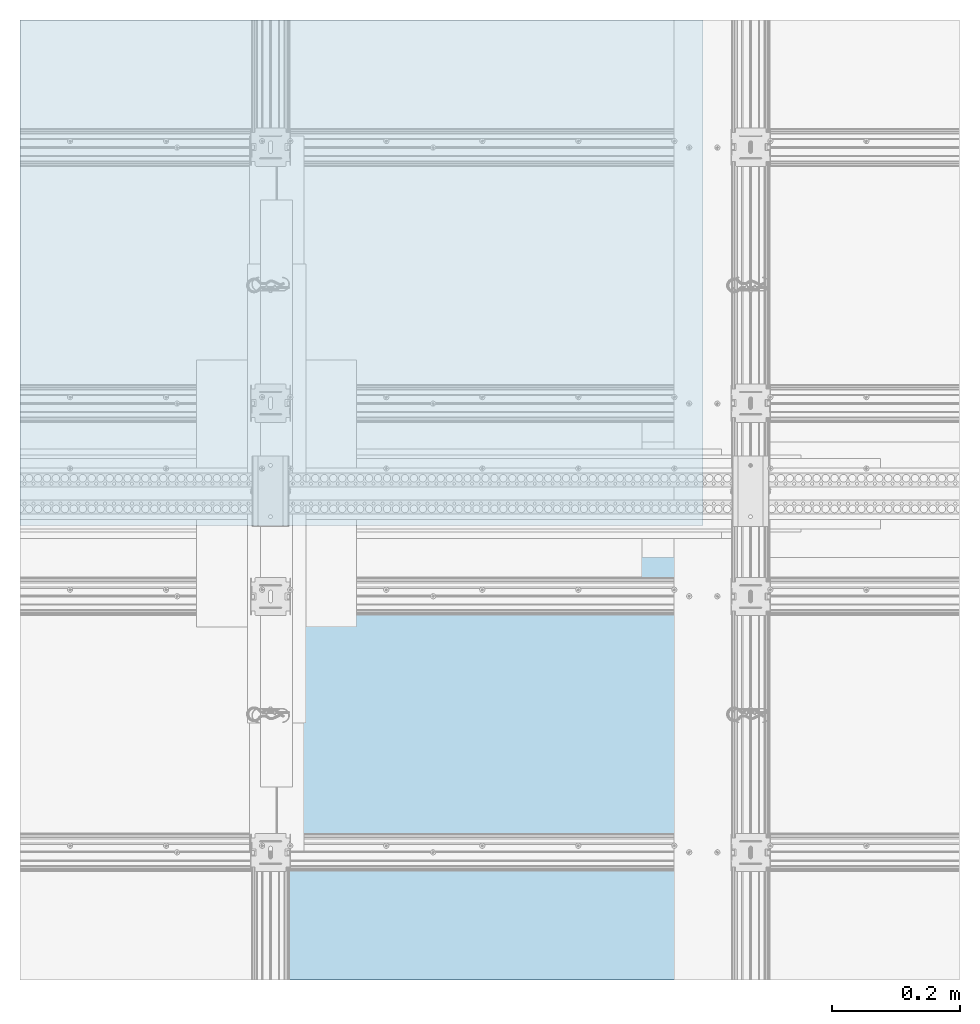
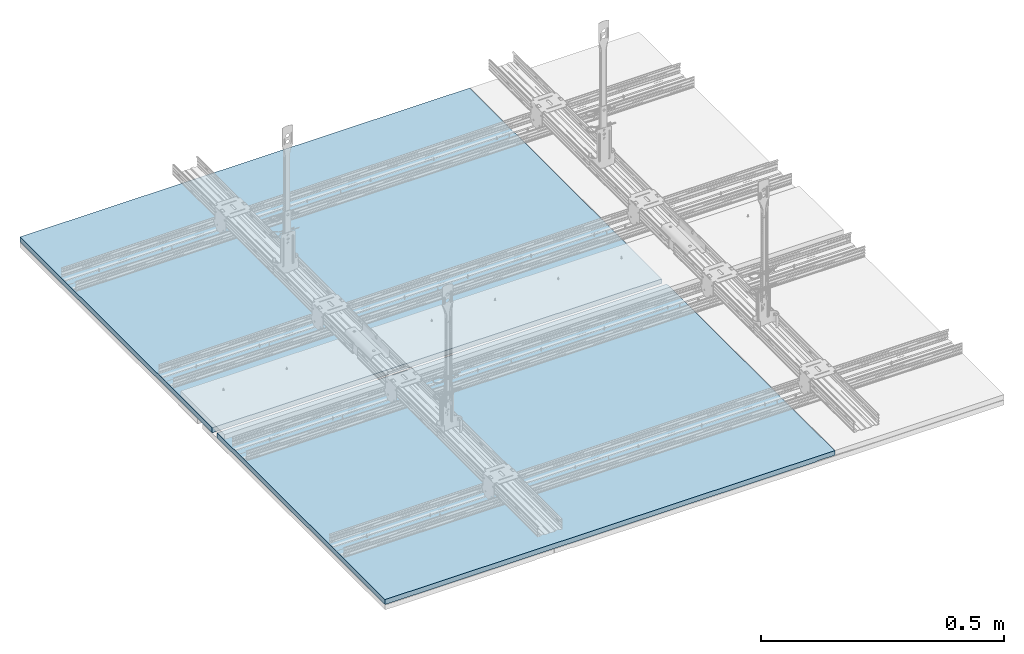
# One storey, part 4 of 73: 2 slabs.
"""IFC2X3 building model written with IfcOpenShell, lengths in millimetres."""

from ifc_helpers import new_model, entity, si_unit, converted_unit, direction, frame, origin, origin_with_axes, place, context, project, spatial, faceted_brep, element, save


model = new_model("IFC2X3")

# Units and contexts
model_context = context("Model", 3, precision=1e-05, world=origin(), true_north=direction((0.0, 1.0, 0.0)))
ifc_project = project(units=[si_unit("LENGTHUNIT", "METRE", prefix="MILLI"), si_unit("AREAUNIT", "SQUARE_METRE"), si_unit("VOLUMEUNIT", "CUBIC_METRE"), converted_unit("PLANEANGLEUNIT", "DEGREE", entity("IfcPlaneAngleMeasure", 0.01745), si_unit("PLANEANGLEUNIT", "RADIAN"), dimensions=[0, 0, 0, 0, 0, 0, 0]), si_unit("SOLIDANGLEUNIT", "STERADIAN"), si_unit("MASSUNIT", "GRAM"), si_unit("TIMEUNIT", "SECOND"), si_unit("THERMODYNAMICTEMPERATUREUNIT", "DEGREE_CELSIUS"), si_unit("LUMINOUSINTENSITYUNIT", "LUMEN")], contexts=[model_context])

# Site, building, storey
site_placement = place(None, origin_with_axes())
site = spatial("IfcSite", under=ifc_project, at=site_placement, Name="Default Site", CompositionType="ELEMENT")
building_placement = place(site_placement, origin_with_axes())
building = spatial("IfcBuilding", under=site, at=building_placement, Name="Default Building", CompositionType="ELEMENT")
storey_placement = place(building_placement, origin_with_axes())
storey = spatial("IfcBuildingStorey", under=building, at=storey_placement, Name="Default Building Storey", CompositionType="ELEMENT", Elevation=0.0)

# Slabs
slab_1_placement = place(storey_placement, frame((3191.626404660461, 340.2088794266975, 993.7852175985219), z_axis=(2.242077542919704e-44, -1.0, 3.330669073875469e-16), x_axis=(-1.0, -2.128075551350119e-28, -6.389333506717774e-13)))
element("IfcSlab", 1, at=slab_1_placement, inside=storey, Name="Płyta gipsowo-kartonowa RIGIPS PRO (4PRO™)", context=model_context, shape_type="Brep", body=[
    faceted_brep([(1066.601271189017, -7.47358797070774e-10, -478.1320433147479), (1066.601271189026, 12.49999999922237, -478.1320433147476), (44.99999999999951, 12.50000000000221, -478.1320433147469), (41.00000000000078, 11.5000000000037, -478.1320433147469), (0.9999999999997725, 11.5000000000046, -478.1320433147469), (0.741180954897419, 11.46592582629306, -478.1320433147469), (0.4999999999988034, 11.3660254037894, -478.1320433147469), (0.2928932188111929, 11.20710678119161, -478.1320433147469), (0.1339745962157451, 11.00000000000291, -478.1320433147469), (0.03407417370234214, 10.75881904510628, -478.1320433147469), (-4.692424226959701e-12, 10.50000000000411, -478.1320433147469), (1.082867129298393e-12, 7.219114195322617e-13, -478.1320433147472), (1066.60127118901, 12.49999999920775, -1167.762426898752), (44.99999999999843, 12.4999999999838, -1167.762426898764), (1066.601271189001, -7.645041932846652e-10, -1167.762426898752), (40.9999999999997, 11.49999999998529, -1167.762426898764), (0.9999999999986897, 11.49999999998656, -1167.762426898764), (0.7411809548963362, 11.46592582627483, -1167.762426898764), (0.4999999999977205, 11.36602540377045, -1167.762426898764), (0.29289321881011, 11.20710678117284, -1167.762426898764), (0.1339745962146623, 10.99999999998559, -1167.762426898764), (0.03407417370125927, 10.75881904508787, -1167.762426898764), (-5.775291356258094e-12, 10.49999999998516, -1167.762426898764), (0.0, -1.822826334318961e-11, -1167.762426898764)], [[[0, 1, 2, 3, 4, 5, 6, 7, 8, 9, 10, 11]], [[1, 12, 13, 2]], [[0, 14, 12, 1]], [[2, 13, 15, 3]], [[3, 15, 16, 4]], [[4, 16, 17, 5]], [[5, 17, 18, 6]], [[6, 18, 19, 7]], [[7, 19, 20, 8]], [[8, 20, 21, 9]], [[9, 21, 22, 10]], [[10, 22, 23, 11]], [[0, 11, 23, 14]], [[13, 12, 14, 23, 22, 21, 20, 19, 18, 17, 16, 15]]]),
])
slab_2_placement = place(storey_placement, frame((3191.626404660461, 2696.307050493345, 993.7852175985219), z_axis=(4.484155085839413e-44, 1.0, 3.330669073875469e-16), x_axis=(-1.0, 2.12807555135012e-28, -6.389333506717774e-13)))
element("IfcSlab", 2, at=slab_2_placement, inside=storey, Name="Płyta gipsowo-kartonowa RIGIPS PRO (4PRO™)", context=model_context, shape_type="Brep", body=[
    faceted_brep([(1066.601271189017, 7.47539274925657e-10, -378.1320433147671), (1066.601271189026, -12.49999999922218, -378.1320433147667), (44.99999999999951, -12.50000000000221, -378.132043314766), (41.00000000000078, -11.5000000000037, -378.132043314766), (0.9999999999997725, -11.5000000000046, -378.132043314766), (0.741180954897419, -11.46592582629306, -378.132043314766), (0.4999999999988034, -11.3660254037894, -378.132043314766), (0.2928932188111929, -11.20710678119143, -378.132043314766), (0.1339745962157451, -11.00000000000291, -378.132043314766), (0.03407417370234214, -10.75881904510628, -378.132043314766), (-4.692424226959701e-12, -10.50000000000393, -378.132043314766), (1.082867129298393e-12, -5.414335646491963e-13, -378.1320433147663), (1066.60127118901, -12.49999999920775, -1167.762426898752), (44.99999999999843, -12.4999999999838, -1167.762426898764), (1066.601271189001, 7.645041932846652e-10, -1167.762426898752), (40.9999999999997, -11.49999999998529, -1167.762426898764), (0.9999999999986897, -11.49999999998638, -1167.762426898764), (0.7411809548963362, -11.46592582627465, -1167.762426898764), (0.4999999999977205, -11.36602540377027, -1167.762426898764), (0.29289321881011, -11.20710678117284, -1167.762426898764), (0.1339745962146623, -10.99999999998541, -1167.762426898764), (0.03407417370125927, -10.75881904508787, -1167.762426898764), (-5.775291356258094e-12, -10.49999999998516, -1167.762426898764), (0.0, 1.822826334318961e-11, -1167.762426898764)], [[[0, 1, 2, 3, 4, 5, 6, 7, 8, 9, 10, 11]], [[1, 12, 13, 2]], [[0, 14, 12, 1]], [[2, 13, 15, 3]], [[3, 15, 16, 4]], [[4, 16, 17, 5]], [[5, 17, 18, 6]], [[6, 18, 19, 7]], [[7, 19, 20, 8]], [[8, 20, 21, 9]], [[9, 21, 22, 10]], [[10, 22, 23, 11]], [[0, 11, 23, 14]], [[13, 12, 14, 23, 22, 21, 20, 19, 18, 17, 16, 15]]]),
])

save(model, "model.ifc")
